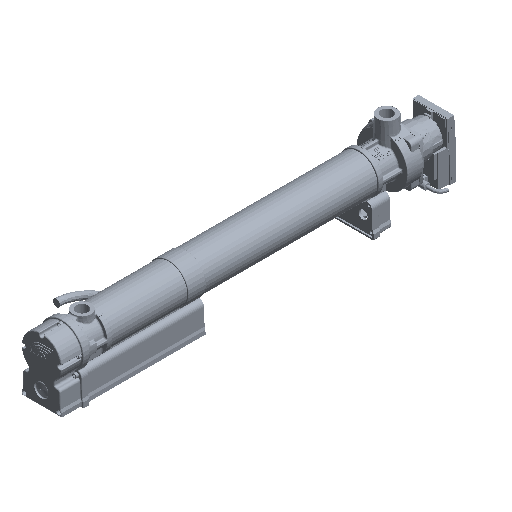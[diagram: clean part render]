
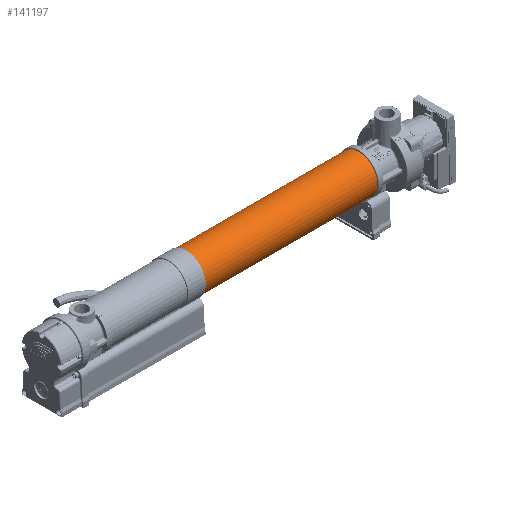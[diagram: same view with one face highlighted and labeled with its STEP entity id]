
A CAD part, isometric view. The second image highlights one B-rep face of the part: STEP entity #141197.
In plain terms, the highlighted cylindrical face has radius 37.5 mm (diameter 75 mm), a partial arc.
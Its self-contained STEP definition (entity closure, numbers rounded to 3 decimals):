
#3128 = EDGE_CURVE ( 'NONE', #30756, #89083, #281861, .T. ) ;
#12983 = AXIS2_PLACEMENT_3D ( 'NONE', #174604, #143458, #112337 ) ;
#14109 = EDGE_CURVE ( 'NONE', #98524, #30756, #195536, .T. ) ;
#14599 = EDGE_CURVE ( 'NONE', #179614, #89083, #290040, .T. ) ;
#19864 = CARTESIAN_POINT ( 'NONE',  ( -37.357, 3.268, 55.171 ) ) ;
#20372 = ORIENTED_EDGE ( 'NONE', *, *, #250587, .T. ) ;
#26079 = AXIS2_PLACEMENT_3D ( 'NONE', #268350, #237186, #205961 ) ;
#30756 = VERTEX_POINT ( 'NONE', #51640 ) ;
#49431 = CARTESIAN_POINT ( 'NONE',  ( -37.357, 3.268, -283.829 ) ) ;
#51115 = LINE ( 'NONE', #19864, #87562 ) ;
#51640 = CARTESIAN_POINT ( 'NONE',  ( -37.5, 0., -283.829 ) ) ;
#63226 = EDGE_LOOP ( 'NONE', ( #197512, #20372, #123919, #191662 ) ) ;
#87562 = VECTOR ( 'NONE', #292994, 1000. ) ;
#89083 = VERTEX_POINT ( 'NONE', #215745 ) ;
#98524 = VERTEX_POINT ( 'NONE', #49431 ) ;
#112337 = DIRECTION ( 'NONE',  ( -1., 0., 0. ) ) ;
#123919 = ORIENTED_EDGE ( 'NONE', *, *, #14599, .T. ) ;
#141197 = ADVANCED_FACE ( 'NONE', ( #293781 ), #301624, .T. ) ;
#143458 = DIRECTION ( 'NONE',  ( 0., 0., -1. ) ) ;
#164519 = DIRECTION ( 'NONE',  ( -1., 0., 0. ) ) ;
#174604 = CARTESIAN_POINT ( 'NONE',  ( 0., 0., -122.404 ) ) ;
#179614 = VERTEX_POINT ( 'NONE', #200178 ) ;
#191662 = ORIENTED_EDGE ( 'NONE', *, *, #3128, .F. ) ;
#195536 = CIRCLE ( 'NONE', #289109, 37.5 ) ;
#195651 = DIRECTION ( 'NONE',  ( 0., 0., -1. ) ) ;
#197512 = ORIENTED_EDGE ( 'NONE', *, *, #14109, .F. ) ;
#200178 = CARTESIAN_POINT ( 'NONE',  ( -37.357, 3.268, 55.171 ) ) ;
#205961 = DIRECTION ( 'NONE',  ( -1., 0., 0. ) ) ;
#215745 = CARTESIAN_POINT ( 'NONE',  ( -37.5, 0., 55.171 ) ) ;
#219552 = DIRECTION ( 'NONE',  ( 0., 0., 1. ) ) ;
#237186 = DIRECTION ( 'NONE',  ( 0., 0., -1. ) ) ;
#239160 = VECTOR ( 'NONE', #219552, 1000. ) ;
#250587 = EDGE_CURVE ( 'NONE', #98524, #179614, #51115, .T. ) ;
#250691 = CARTESIAN_POINT ( 'NONE',  ( -37.5, 0., 55.171 ) ) ;
#258036 = CARTESIAN_POINT ( 'NONE',  ( 0., 0., -283.829 ) ) ;
#268350 = CARTESIAN_POINT ( 'NONE',  ( 0., 0., 55.171 ) ) ;
#281861 = LINE ( 'NONE', #250691, #239160 ) ;
#289109 = AXIS2_PLACEMENT_3D ( 'NONE', #258036, #195651, #164519 ) ;
#290040 = CIRCLE ( 'NONE', #26079, 37.5 ) ;
#292994 = DIRECTION ( 'NONE',  ( 0., 0., 1. ) ) ;
#293781 = FACE_OUTER_BOUND ( 'NONE', #63226, .T. ) ;
#301624 = CYLINDRICAL_SURFACE ( 'NONE', #12983, 37.5 ) ;
